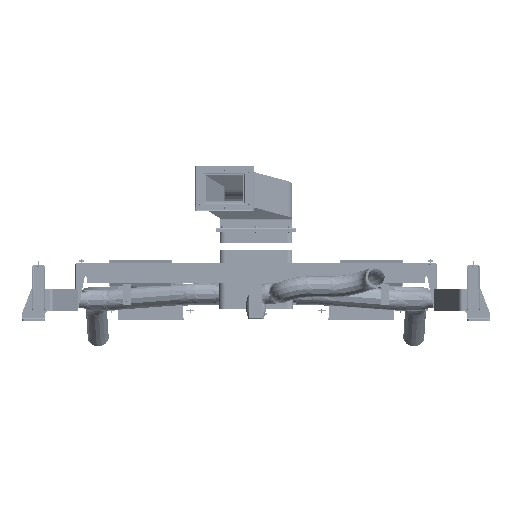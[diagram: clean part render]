
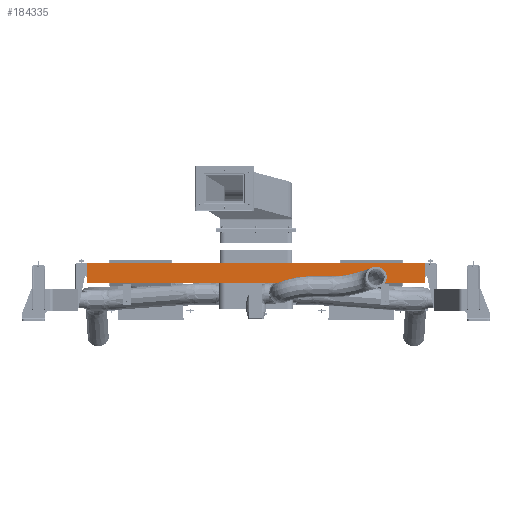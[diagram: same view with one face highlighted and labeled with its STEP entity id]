
A CAD part, left-side view. The second image highlights one B-rep face of the part: STEP entity #184335.
In plain terms, the highlighted planar face has unit normal (-1, 0, 0).
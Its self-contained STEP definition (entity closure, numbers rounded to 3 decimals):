
#184317=AXIS2_PLACEMENT_3D('Plane Axis2P3D',#184314,#184315,#184316) ;
#183222=CARTESIAN_POINT('Vertex',(858.001,-907.5,3661.5)) ;
#183225=CARTESIAN_POINT('Line Origine',(858.001,-907.5,3606.75)) ;
#183229=CARTESIAN_POINT('Vertex',(858.001,-907.5,3552.)) ;
#183567=CARTESIAN_POINT('Vertex',(858.001,907.5,3552.)) ;
#183570=CARTESIAN_POINT('Line Origine',(858.001,907.5,3606.75)) ;
#183574=CARTESIAN_POINT('Vertex',(858.001,907.5,3661.5)) ;
#184314=CARTESIAN_POINT('Axis2P3D Location',(858.001,894.5,3552.)) ;
#184319=CARTESIAN_POINT('Line Origine',(858.001,0.,3661.5)) ;
#184324=CARTESIAN_POINT('Line Origine',(858.001,0.,3552.)) ;
#183226=DIRECTION('Vector Direction',(0.,0.,-1.)) ;
#183571=DIRECTION('Vector Direction',(0.,0.,1.)) ;
#184315=DIRECTION('Axis2P3D Direction',(1.,0.,0.)) ;
#184316=DIRECTION('Axis2P3D XDirection',(0.,0.,1.)) ;
#184320=DIRECTION('Vector Direction',(0.,-1.,0.)) ;
#184325=DIRECTION('Vector Direction',(0.,-1.,0.)) ;
#183227=VECTOR('Line Direction',#183226,1.) ;
#183572=VECTOR('Line Direction',#183571,1.) ;
#184321=VECTOR('Line Direction',#184320,1.) ;
#184326=VECTOR('Line Direction',#184325,1.) ;
#184330=ORIENTED_EDGE('',*,*,#184323,.F.) ;
#184331=ORIENTED_EDGE('',*,*,#183576,.F.) ;
#184332=ORIENTED_EDGE('',*,*,#184328,.T.) ;
#184333=ORIENTED_EDGE('',*,*,#183231,.F.) ;
#184335=ADVANCED_FACE('PartBody',(#184334),#184318,.F.) ;
#183231=EDGE_CURVE('',#183223,#183230,#183228,.T.) ;
#183576=EDGE_CURVE('',#183568,#183575,#183573,.T.) ;
#184323=EDGE_CURVE('',#183575,#183223,#184322,.T.) ;
#184328=EDGE_CURVE('',#183568,#183230,#184327,.T.) ;
#184329=EDGE_LOOP('',(#184330,#184331,#184332,#184333)) ;
#184334=FACE_OUTER_BOUND('',#184329,.T.) ;
#183228=LINE('Line',#183225,#183227) ;
#183573=LINE('Line',#183570,#183572) ;
#184322=LINE('Line',#184319,#184321) ;
#184327=LINE('Line',#184324,#184326) ;
#184318=PLANE('',#184317) ;
#183223=VERTEX_POINT('',#183222) ;
#183230=VERTEX_POINT('',#183229) ;
#183568=VERTEX_POINT('',#183567) ;
#183575=VERTEX_POINT('',#183574) ;
